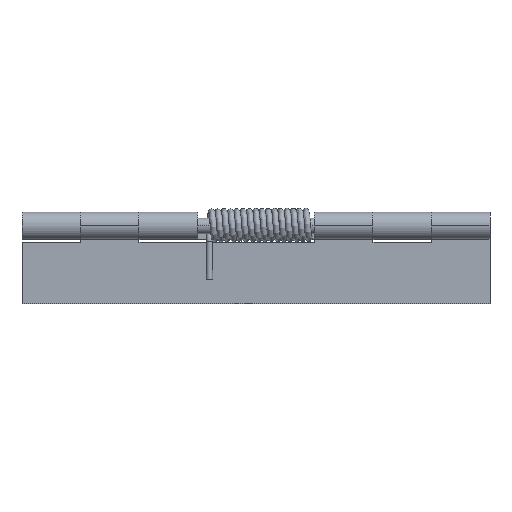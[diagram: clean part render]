
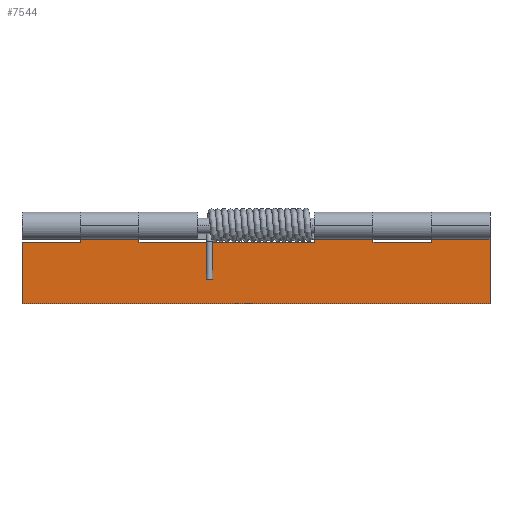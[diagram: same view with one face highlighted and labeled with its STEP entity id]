
A CAD part, left-side view. The second image highlights one B-rep face of the part: STEP entity #7544.
In plain terms, the highlighted planar face has unit normal (-1, 0, -0.001).
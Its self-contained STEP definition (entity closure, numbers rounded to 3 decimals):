
#7173=CARTESIAN_POINT('',(1.989,45.0,8.251));
#7174=VERTEX_POINT('',#7173);
#7182=CARTESIAN_POINT('',(1.989,30.0,8.251));
#7183=VERTEX_POINT('',#7182);
#7184=CARTESIAN_POINT('',(1.989,30.0,8.251));
#7185=DIRECTION('',(0.0,1.0,0.0));
#7186=VECTOR('',#7185,15.0);
#7187=LINE('',#7184,#7186);
#7188=EDGE_CURVE('',#7183,#7174,#7187,.T.);
#7299=CARTESIAN_POINT('',(1.989,-15.0,8.251));
#7300=VERTEX_POINT('',#7299);
#7308=CARTESIAN_POINT('',(1.989,-30.,8.251));
#7309=VERTEX_POINT('',#7308);
#7310=CARTESIAN_POINT('',(1.989,-30.,8.251));
#7311=DIRECTION('',(0.0,1.0,0.0));
#7312=VECTOR('',#7311,15.);
#7313=LINE('',#7310,#7312);
#7314=EDGE_CURVE('',#7309,#7300,#7313,.T.);
#7425=CARTESIAN_POINT('',(1.989,-45.,8.251));
#7426=VERTEX_POINT('',#7425);
#7434=CARTESIAN_POINT('',(1.989,-60.,8.251));
#7435=VERTEX_POINT('',#7434);
#7436=CARTESIAN_POINT('',(1.989,-60.,8.251));
#7437=DIRECTION('',(0.0,1.0,0.0));
#7438=VECTOR('',#7437,15.0);
#7439=LINE('',#7436,#7438);
#7440=EDGE_CURVE('',#7435,#7426,#7439,.T.);
#7452=CARTESIAN_POINT('',(2.011,75.0,-11.749));
#7453=DIRECTION('',(-1.,0.,-0.001));
#7454=DIRECTION('',(0.001,0.,-1.));
#7455=AXIS2_PLACEMENT_3D('',#7452,#7453,#7454);
#7456=PLANE('',#7455);
#7457=CARTESIAN_POINT('',(1.994,-15.0,4.001));
#7458=VERTEX_POINT('',#7457);
#7459=CARTESIAN_POINT('',(1.994,30.0,4.001));
#7460=VERTEX_POINT('',#7459);
#7461=CARTESIAN_POINT('',(1.994,-15.0,4.001));
#7462=DIRECTION('',(0.0,1.0,0.0));
#7463=VECTOR('',#7462,45.0);
#7464=LINE('',#7461,#7463);
#7465=EDGE_CURVE('',#7458,#7460,#7464,.T.);
#7466=ORIENTED_EDGE('',*,*,#7465,.T.);
#7467=CARTESIAN_POINT('',(1.994,30.0,4.001));
#7468=DIRECTION('',(-0.001,0.0,1.));
#7469=VECTOR('',#7468,4.25);
#7470=LINE('',#7467,#7469);
#7471=EDGE_CURVE('',#7460,#7183,#7470,.T.);
#7472=ORIENTED_EDGE('',*,*,#7471,.T.);
#7473=ORIENTED_EDGE('',*,*,#7188,.T.);
#7474=CARTESIAN_POINT('',(1.994,45.0,4.001));
#7475=VERTEX_POINT('',#7474);
#7476=CARTESIAN_POINT('',(1.994,45.0,4.001));
#7477=DIRECTION('',(-0.001,0.0,1.));
#7478=VECTOR('',#7477,4.25);
#7479=LINE('',#7476,#7478);
#7480=EDGE_CURVE('',#7475,#7174,#7479,.T.);
#7481=ORIENTED_EDGE('',*,*,#7480,.F.);
#7482=CARTESIAN_POINT('',(1.994,60.0,4.001));
#7483=VERTEX_POINT('',#7482);
#7484=CARTESIAN_POINT('',(1.994,45.0,4.001));
#7485=DIRECTION('',(0.0,1.0,0.0));
#7486=VECTOR('',#7485,15.0);
#7487=LINE('',#7484,#7486);
#7488=EDGE_CURVE('',#7475,#7483,#7487,.T.);
#7489=ORIENTED_EDGE('',*,*,#7488,.T.);
#7490=CARTESIAN_POINT('',(2.011,60.0,-11.749));
#7491=VERTEX_POINT('',#7490);
#7492=CARTESIAN_POINT('',(1.994,60.0,4.001));
#7493=DIRECTION('',(0.001,0.0,-1.));
#7494=VECTOR('',#7493,15.75);
#7495=LINE('',#7492,#7494);
#7496=EDGE_CURVE('',#7483,#7491,#7495,.T.);
#7497=ORIENTED_EDGE('',*,*,#7496,.T.);
#7498=CARTESIAN_POINT('',(2.011,-60.,-11.749));
#7499=VERTEX_POINT('',#7498);
#7500=CARTESIAN_POINT('',(2.011,60.0,-11.749));
#7501=DIRECTION('',(0.0,-1.0,0.0));
#7502=VECTOR('',#7501,120.0);
#7503=LINE('',#7500,#7502);
#7504=EDGE_CURVE('',#7491,#7499,#7503,.T.);
#7505=ORIENTED_EDGE('',*,*,#7504,.T.);
#7506=CARTESIAN_POINT('',(2.011,-60.,-11.749));
#7507=DIRECTION('',(-0.001,0.0,1.));
#7508=VECTOR('',#7507,20.0);
#7509=LINE('',#7506,#7508);
#7510=EDGE_CURVE('',#7499,#7435,#7509,.T.);
#7511=ORIENTED_EDGE('',*,*,#7510,.T.);
#7512=ORIENTED_EDGE('',*,*,#7440,.T.);
#7513=CARTESIAN_POINT('',(1.994,-45.,4.001));
#7514=VERTEX_POINT('',#7513);
#7515=CARTESIAN_POINT('',(1.994,-45.,4.001));
#7516=DIRECTION('',(-0.001,0.0,1.));
#7517=VECTOR('',#7516,4.25);
#7518=LINE('',#7515,#7517);
#7519=EDGE_CURVE('',#7514,#7426,#7518,.T.);
#7520=ORIENTED_EDGE('',*,*,#7519,.F.);
#7521=CARTESIAN_POINT('',(1.994,-30.,4.001));
#7522=VERTEX_POINT('',#7521);
#7523=CARTESIAN_POINT('',(1.994,-45.,4.001));
#7524=DIRECTION('',(0.0,1.0,0.0));
#7525=VECTOR('',#7524,15.);
#7526=LINE('',#7523,#7525);
#7527=EDGE_CURVE('',#7514,#7522,#7526,.T.);
#7528=ORIENTED_EDGE('',*,*,#7527,.T.);
#7529=CARTESIAN_POINT('',(1.994,-30.,4.001));
#7530=DIRECTION('',(-0.001,0.0,1.));
#7531=VECTOR('',#7530,4.25);
#7532=LINE('',#7529,#7531);
#7533=EDGE_CURVE('',#7522,#7309,#7532,.T.);
#7534=ORIENTED_EDGE('',*,*,#7533,.T.);
#7535=ORIENTED_EDGE('',*,*,#7314,.T.);
#7536=CARTESIAN_POINT('',(1.994,-15.0,4.001));
#7537=DIRECTION('',(-0.001,0.0,1.));
#7538=VECTOR('',#7537,4.25);
#7539=LINE('',#7536,#7538);
#7540=EDGE_CURVE('',#7458,#7300,#7539,.T.);
#7541=ORIENTED_EDGE('',*,*,#7540,.F.);
#7542=EDGE_LOOP('',(#7466,#7472,#7473,#7481,#7489,#7497,#7505,#7511,#7512,#7520,#7528,#7534,#7535,#7541));
#7543=FACE_OUTER_BOUND('',#7542,.T.);
#7544=ADVANCED_FACE('',(#7543),#7456,.T.);
